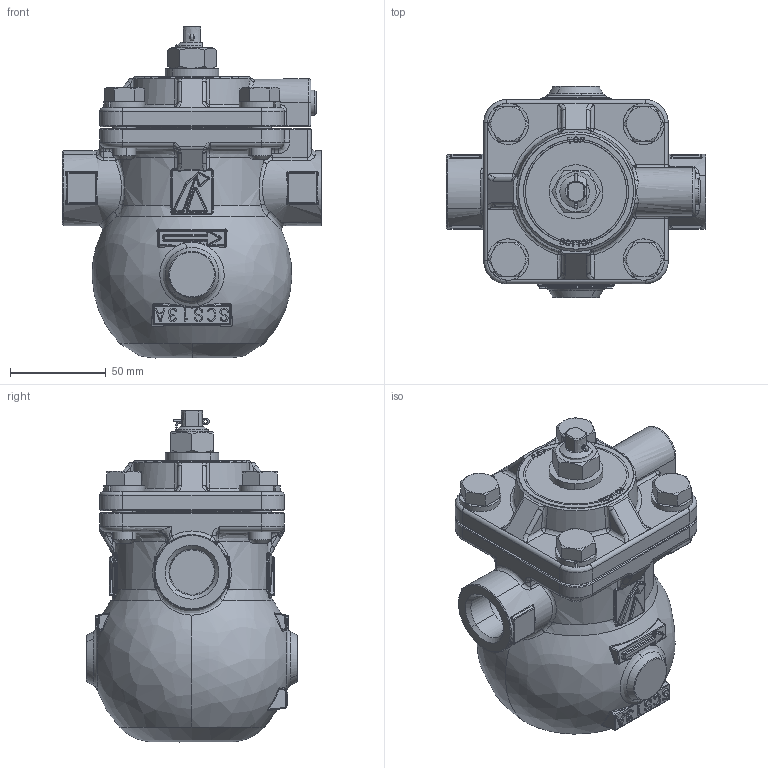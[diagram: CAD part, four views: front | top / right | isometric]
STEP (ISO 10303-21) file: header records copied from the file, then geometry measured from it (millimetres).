
FILE_DESCRIPTION((''),'2;1');
FILE_NAME('','2020-10-13T10:21:38',(''),(''),'','CADfix','');
FILE_SCHEMA(('AUTOMOTIVE_DESIGN { 1 0 10303 214 1 1 1 1 }'));
Length unit declared in the file: millimetre
Products named in the file (13): 本体 20A JIS Rc 埋め; ふた 埋め; 　コック 埋め; CP_'_JIS B 1180 呼び径六角ボルト'_17166; CP_'_JIS B 1180 呼び径六角ボルト'_17168; SSLW12; テーパプラグMSWTS2; 3D　TSF-10　割りピン; 3D　TSF-10　銘板文字; 3D　TSF-10　六角ナット; 3D　TSF-10　銘板; 3D　TSF-10　カラー; TSF-10S JISRc 20A_38
Assembly tree (17 placements, depth 2):
  TSF-10S JISRc 20A_38
    本体 20A JIS Rc 埋め
    ふた 埋め
    　コック 埋め
    CP_'_JIS B 1180 呼び径六角ボルト'_17166  x3
    CP_'_JIS B 1180 呼び径六角ボルト'_17168
    SSLW12  x4
    テーパプラグMSWTS2
    3D　TSF-10　割りピン
    3D　TSF-10　銘板文字
    3D　TSF-10　六角ナット
    3D　TSF-10　銘板
    3D　TSF-10　カラー
Bounding box: 135 x 110 x 173 mm (x, y, z)
Volume: 1034863 mm3; surface area: 115048.4 mm2
Topology: 17 solids, 17 shells, 1548 faces, 4188 edges, 2657 vertices
Faces by surface type: bspline 1548
Entity records: 72592 total; most frequent: CARTESIAN_POINT 44103, ORIENTED_EDGE 7906, STYLED_ITEM 4886, EDGE_CURVE 3953, VERTEX_POINT 2503, QUASI_UNIFORM_CURVE 1842, B_SPLINE_CURVE_WITH_KNOTS 1761, EDGE_LOOP 1538
